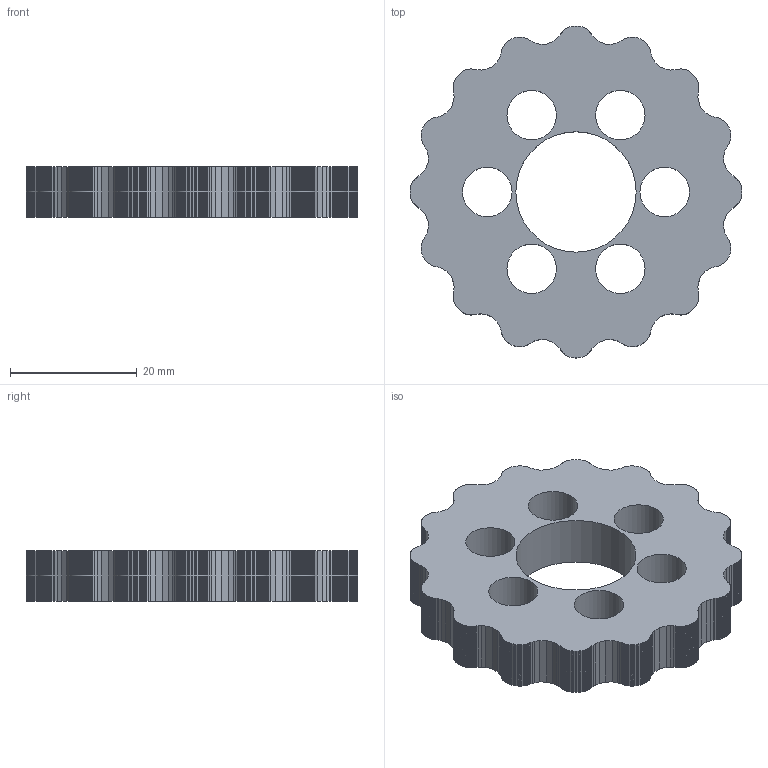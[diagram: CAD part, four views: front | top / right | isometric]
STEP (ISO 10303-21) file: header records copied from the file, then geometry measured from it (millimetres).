
FILE_DESCRIPTION(('FreeCAD Model'),'2;1');
FILE_NAME('Open CASCADE Shape Model','2026-11-09T00:40:24',('FreeCAD'),( 'FreeCAD'),'Open CASCADE STEP processor 7.8','FreeCAD','Unknown');
FILE_SCHEMA(('AUTOMOTIVE_DESIGN { 1 0 10303 214 1 1 1 1 }'));
Length unit declared in the file: millimetre
Products named in the file (1): Open CASCADE STEP translator 7.8 4
Bounding box: 52.4 x 52.4 x 8 mm (x, y, z)
Volume: 11191 mm3; surface area: 5900.1 mm2
Topology: 1 solids, 1 shells, 729 faces, 2181 edges, 1454 vertices
Faces by surface type: plane 722, cylinder 7
Full cylindrical faces by diameter (mm): 7.8 x6, 19 x1
Entity records: 24067 total; most frequent: CARTESIAN_POINT 4365, ORIENTED_EDGE 4362, DIRECTION 3655, EDGE_CURVE 2181, LINE 2167, VECTOR 2167, VERTEX_POINT 1454, AXIS2_PLACEMENT_3D 744
